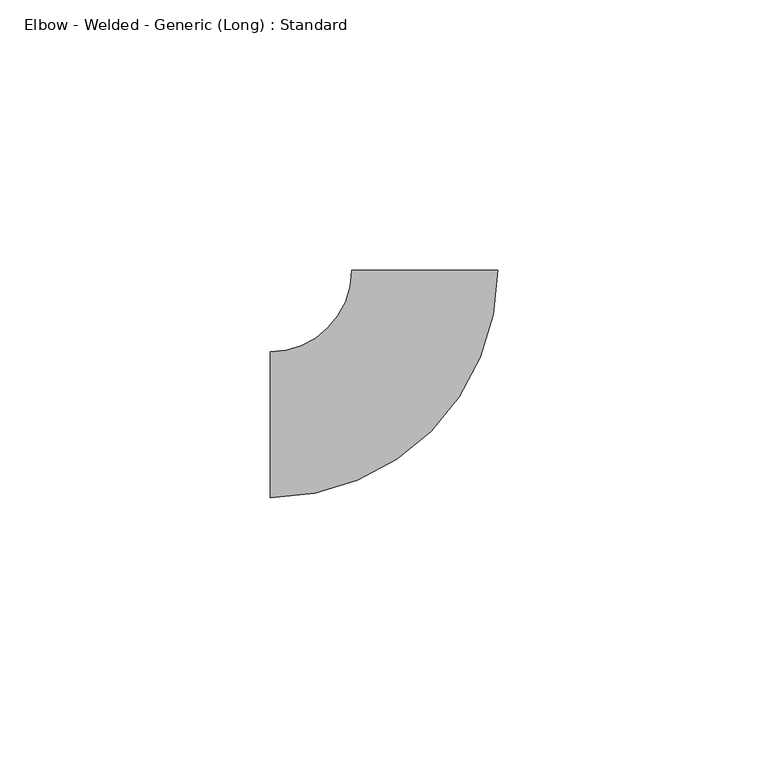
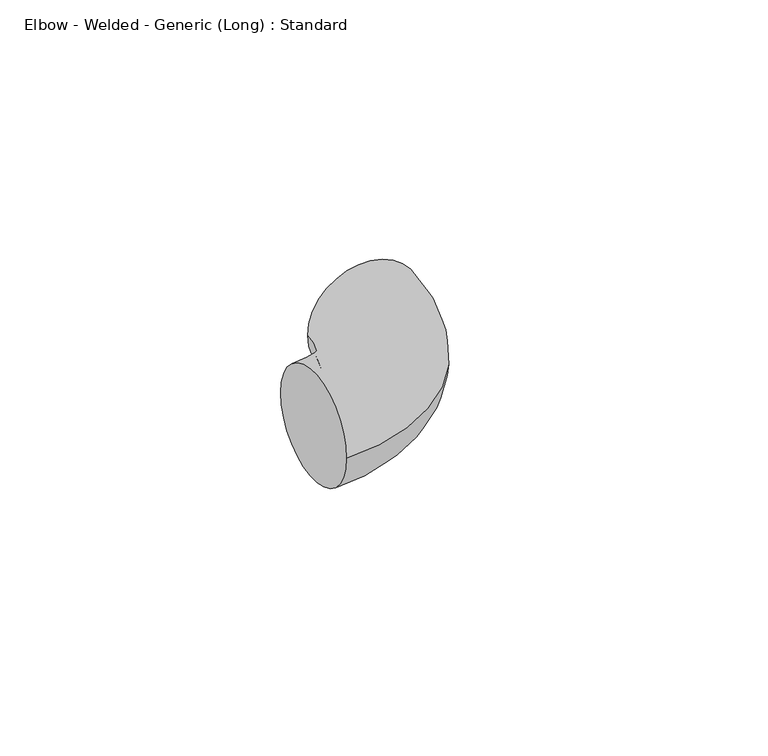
"""IFC4 building model written with IfcOpenShell, lengths in millimetres: pipe fitting geometry, Elbow - Welded - Generic (Long) : Standard."""

from ifc_helpers import new_model, si_unit, point, frame, origin, place, context, project, spatial, circle_curve, ellipse_curve, trimmed, source, transform, mapped, element, save
from ifc_brep_helpers import plane_surface, revolved_surface, advanced_brep


def elbow_welded_generic_long_standard_1b7c7ad0(model_context):
    return source(origin(), model_context, "Body", "AdvancedBrep", [
        advanced_brep(
        [(-28.575, -13.49375, 0.0), (-28.575, 13.49375, 0.0), (13.4763694, 28.583201, 0.0), (-13.5111256, 28.5667884, 0.0)],
        [
            (0, 1, circle_curve(frame((-28.575, 0.0, 0.0), z_axis=(-1.0, 0.0, 0.0), x_axis=(0.0, 1.0, 0.0)), 13.49375)),
            (1, 0, circle_curve(frame((-28.575, 0.0, 0.0), z_axis=(-1.0, 0.0, 0.0), x_axis=(0.0, 1.0, 0.0)), 13.49375)),
            (2, 3, circle_curve(frame((-0.0173781, 28.5749947, 0.0), z_axis=(-0.0006081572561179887, 0.9999998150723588, 0.0), x_axis=(-0.9999998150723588, -0.0006081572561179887, 0.0)), 13.49375)),
            (3, 2, circle_curve(frame((-0.0173781, 28.5749947, 0.0), z_axis=(-0.0006081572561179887, 0.9999998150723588, 0.0), x_axis=(-0.9999998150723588, -0.0006081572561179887, 0.0)), 13.49375)),
            (3, 1, circle_curve(frame((-28.575, 28.5576272, 0.0), z_axis=(0.0, 0.0, -1.0), x_axis=(0.0, -1.0, 0.0)), 15.0638772)),
            (0, 2, circle_curve(frame((-28.575, 28.5576272, 0.0), z_axis=(0.0, 0.0, 1.0), x_axis=(0.0, -1.0, 0.0)), 42.0513772)),
        ],
        [
            plane_surface(frame((-28.575, 0.0, 0.0), z_axis=(-1.0, 0.0, 0.0), x_axis=(0.0, 0.0, 1.0))),
            plane_surface(frame((-0.0173781, 28.5749947, 0.0), z_axis=(-0.0006081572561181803, 0.9999998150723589, 0.0), x_axis=(0.0, 0.0, 1.0))),
            revolved_surface(trimmed(ellipse_curve(frame((-28.575, 0.0, 0.0), z_axis=(-1.0, 0.0, 0.0), x_axis=(0.0, 1.0, 0.0)), 13.49375, 13.49375), [point((-28.575, -13.49375, 0.0))], [point((-28.575, 13.49375, 0.0))], True, "CARTESIAN"), (-28.575, 28.5576272, 0.0), (0.0, 0.0, 1.0)),
            revolved_surface(trimmed(ellipse_curve(frame((-28.575, 0.0, 0.0), z_axis=(-1.0, 0.0, 0.0), x_axis=(0.0, 1.0, 0.0)), 13.49375, 13.49375), [point((-28.575, 13.49375, 0.0))], [point((-28.575, -13.49375, 0.0))], True, "CARTESIAN"), (-28.575, 28.5576272, 0.0), (0.0, 0.0, 1.0)),
        ],
        [
            (0, [[1, 2]]),
            (1, [[3, 4]]),
            (2, [[5, -1, 6, -4]]),
            (3, [[-6, -2, -5, -3]]),
        ],
    ),
    ])


if __name__ == "__main__":
    model = new_model("IFC4")
    model_context = context("Model", 3, world=origin())
    ifc_project = project(units=[si_unit("LENGTHUNIT", "METRE", prefix="MILLI")], contexts=[model_context])
    site = spatial("IfcSite", under=ifc_project)
    building = spatial("IfcBuilding", under=site)
    placement = place(None, origin())
    elbow_welded_generic_long_standard_shape = elbow_welded_generic_long_standard_1b7c7ad0(model_context)
    element("IfcPipeFitting", 1, ObjectType="Elbow - Welded - Generic (Long) : Standard", at=placement, inside=building, context=model_context, shape_type="MappedRepresentation", body=[
        mapped(elbow_welded_generic_long_standard_shape, transform((0.0, 0.0, 0.0), x_axis=(1.0, 0.0, 0.0), y_axis=(0.0, 1.0, 0.0), z_axis=(0.0, 0.0, 1.0))),
    ])
    save(model, "model.ifc")
